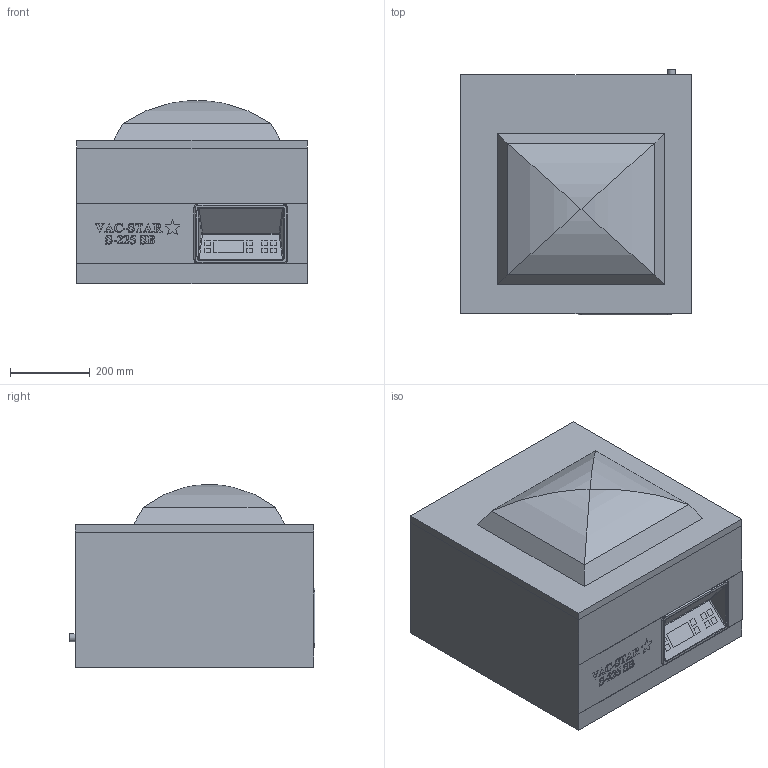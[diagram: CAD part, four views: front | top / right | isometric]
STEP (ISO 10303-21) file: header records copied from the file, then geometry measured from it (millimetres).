
FILE_DESCRIPTION(/* description */ ('Unknown'),/* implementation_level */ '2;1');
FILE_NAME(/* name */ 'C3D-S225-SB-AA',/* time_stamp */ '2021-10-22T10:46:08+02:00',/* author */ ('Unknown'),/* organization */ ('Unknown'),/* preprocessor_version */ 'ST-DEVELOPER v16.7',/* originating_system */ 'Solid Edge',/* authorisation */ 'Unknown');
FILE_SCHEMA (('AP203_CONFIGURATION_CONTROLLED_3D_DESIGN_OF_MECHANICAL_PARTS_AND_ASSEMBLIES_MIM_LF { 1 0 10303 203 3 1 4 }','AUTOMOTIVE_DESIGN {1 0 10303 214 3 1 1}'));
Length unit declared in the file: millimetre
Products named in the file (1): R-VAC-STAR-S225-SB
Bounding box: 580 x 618.01 x 460 mm (x, y, z)
Volume: 100007941 mm3; surface area: 2563779.8 mm2
Topology: 2 solids, 2 shells, 288 faces, 725 edges, 474 vertices
Faces by surface type: plane 214, bspline 46, cylinder 22, torus 4, sphere 2
Full cylindrical faces by diameter (mm): 20 x1
Entity records: 15145 total; most frequent: CARTESIAN_POINT 6659, ORIENTED_EDGE 1444, DIRECTION 1048, EDGE_CURVE 722, LINE 474, VECTOR 474, VERTEX_POINT 474, EDGE_LOOP 324
